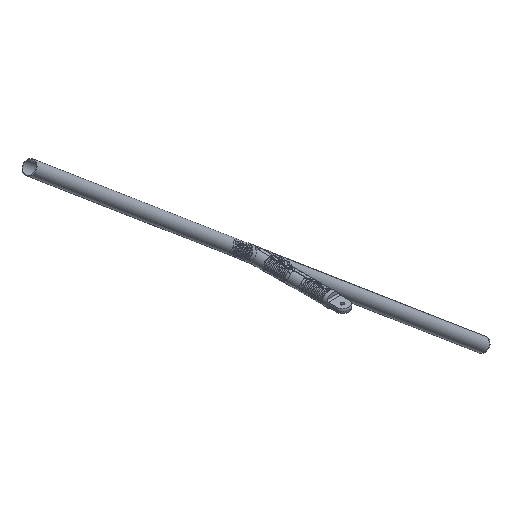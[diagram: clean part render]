
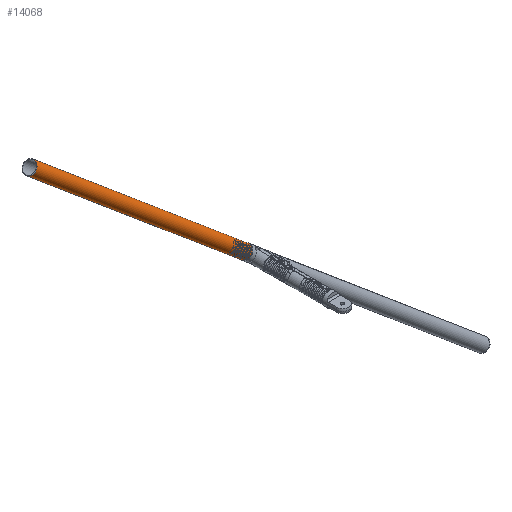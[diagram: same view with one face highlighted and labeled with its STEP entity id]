
A CAD part, isometric view. The second image highlights one B-rep face of the part: STEP entity #14068.
In plain terms, the highlighted cylindrical face has radius 13.716 mm (diameter 27.432 mm), a partial arc.
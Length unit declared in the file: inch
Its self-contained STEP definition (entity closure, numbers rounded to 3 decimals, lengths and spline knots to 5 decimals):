
#1987 = FACE_OUTER_BOUND ( 'NONE', #5568, .T. ) ;
#3305 = ORIENTED_EDGE ( 'NONE', *, *, #17901, .T. ) ;
#3635 = DIRECTION ( 'NONE',  ( 1., 0., 0. ) ) ;
#4534 = DIRECTION ( 'NONE',  ( 1., 0., 0. ) ) ;
#5544 = LINE ( 'NONE', #21063, #23768 ) ;
#5568 = EDGE_LOOP ( 'NONE', ( #27900, #22589, #3305, #11386 ) ) ;
#6195 = CIRCLE ( 'NONE', #24247, 0.54 ) ;
#6362 = DIRECTION ( 'NONE',  ( 0., 0., -1. ) ) ;
#9005 = CARTESIAN_POINT ( 'NONE',  ( -24., 0., -0.54 ) ) ;
#11386 = ORIENTED_EDGE ( 'NONE', *, *, #16472, .F. ) ;
#12380 = CARTESIAN_POINT ( 'NONE',  ( 0., 0., 0. ) ) ;
#12610 = EDGE_CURVE ( 'NONE', #21453, #14022, #21599, .T. ) ;
#13114 = DIRECTION ( 'NONE',  ( 1., 0., 0. ) ) ;
#14022 = VERTEX_POINT ( 'NONE', #27662 ) ;
#14068 = ADVANCED_FACE ( 'NONE', ( #1987 ), #25658, .T. ) ;
#14738 = DIRECTION ( 'NONE',  ( 0., 0., -1. ) ) ;
#15171 = EDGE_CURVE ( 'NONE', #21453, #22816, #6195, .T. ) ;
#15725 = CARTESIAN_POINT ( 'NONE',  ( 0., 0., 0. ) ) ;
#16472 = EDGE_CURVE ( 'NONE', #14022, #17528, #17426, .T. ) ;
#17426 = CIRCLE ( 'NONE', #22877, 0.54 ) ;
#17528 = VERTEX_POINT ( 'NONE', #21519 ) ;
#17901 = EDGE_CURVE ( 'NONE', #22816, #17528, #5544, .T. ) ;
#20844 = VECTOR ( 'NONE', #3635, 39.37008 ) ;
#21063 = CARTESIAN_POINT ( 'NONE',  ( 0., 0., -0.54 ) ) ;
#21453 = VERTEX_POINT ( 'NONE', #26131 ) ;
#21519 = CARTESIAN_POINT ( 'NONE',  ( 0., 0., -0.54 ) ) ;
#21599 = LINE ( 'NONE', #22548, #20844 ) ;
#22548 = CARTESIAN_POINT ( 'NONE',  ( 0., 0., 0.54 ) ) ;
#22589 = ORIENTED_EDGE ( 'NONE', *, *, #15171, .T. ) ;
#22816 = VERTEX_POINT ( 'NONE', #9005 ) ;
#22877 = AXIS2_PLACEMENT_3D ( 'NONE', #12380, #29144, #14738 ) ;
#23768 = VECTOR ( 'NONE', #4534, 39.37008 ) ;
#24247 = AXIS2_PLACEMENT_3D ( 'NONE', #27489, #13114, #29837 ) ;
#25034 = AXIS2_PLACEMENT_3D ( 'NONE', #15725, #30106, #6362 ) ;
#25658 = CYLINDRICAL_SURFACE ( 'NONE', #25034, 0.54 ) ;
#26131 = CARTESIAN_POINT ( 'NONE',  ( -24., 0., 0.54 ) ) ;
#27489 = CARTESIAN_POINT ( 'NONE',  ( -24., 0., 0. ) ) ;
#27662 = CARTESIAN_POINT ( 'NONE',  ( 0., 0., 0.54 ) ) ;
#27900 = ORIENTED_EDGE ( 'NONE', *, *, #12610, .F. ) ;
#29144 = DIRECTION ( 'NONE',  ( 1., 0., 0. ) ) ;
#29837 = DIRECTION ( 'NONE',  ( 0., 0., -1. ) ) ;
#30106 = DIRECTION ( 'NONE',  ( 1., 0., 0. ) ) ;
